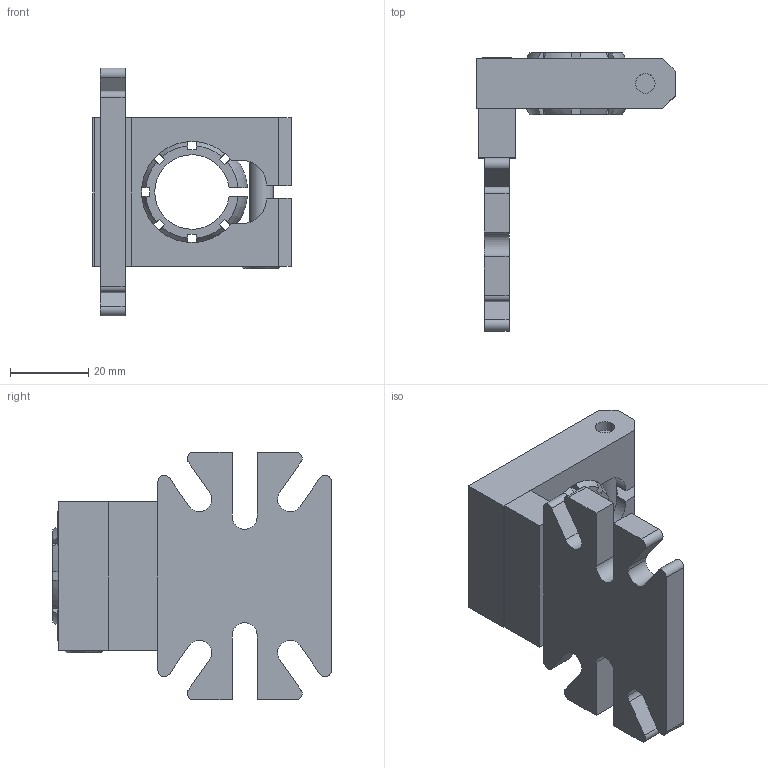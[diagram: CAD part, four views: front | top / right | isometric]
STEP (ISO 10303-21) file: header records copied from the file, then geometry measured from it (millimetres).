
FILE_DESCRIPTION (( 'STEP AP214' ), '1' );
FILE_NAME ('RTI-SGM-75-GMB-250.STEP', '2013-10-22T14:46:51', ( 'user' ), ( '' ), 'SwSTEP 2.0', 'SolidWorks 2009', '' );
FILE_SCHEMA (( 'AUTOMOTIVE_DESIGN' ));
Length unit declared in the file: inch
Products named in the file (10): RTI-SM-SP-50; M5 WASHER; M5 S.H.C.S._M5x25mm; RTI-GMB-250; RTI-SMB-75; 1.125 OD_.758 ID_Swivel_Ball; M6 WASHER; M6 S.H.C.S._M6x30mm; RTI-SGM-75-GMB-250
Assembly tree (11 placements, depth 3):
  RTI-SGM-75-GMB-250
    RTI-SMB-75
      M6 S.H.C.S._M6x30mm
      1.125 OD_.758 ID_Swivel_Ball
      RTI-SMB-75
      M6 WASHER
    RTI-GMB-250
    M5 S.H.C.S._M5x25mm  x2
    M5 WASHER  x2
    RTI-SM-SP-50
Bounding box: 50.8 x 71.44 x 63.5 mm (x, y, z)
Volume: 36890 mm3; surface area: 22196.5 mm2
Topology: 10 solids, 10 shells, 1059 faces, 2755 edges, 1829 vertices
Faces by surface type: plane 642, bspline 316, cylinder 75, cone 16, torus 8, sphere 2
Entity records: 62402 total; most frequent: CARTESIAN_POINT 27952, ORIENTED_EDGE 5392, DIRECTION 3675, EDGE_CURVE 2696, VECTOR 1881, LINE 1881, VERTEX_POINT 1794, EDGE_LOOP 1168
